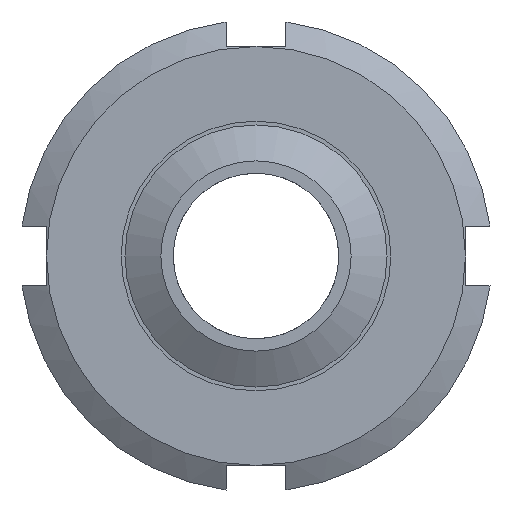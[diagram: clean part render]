
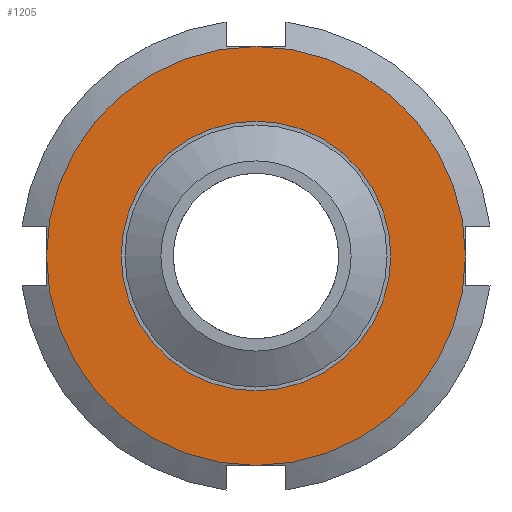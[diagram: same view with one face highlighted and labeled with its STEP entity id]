
A CAD part, front view. The second image highlights one B-rep face of the part: STEP entity #1205.
In plain terms, the highlighted planar face has unit normal (0, -1, 0) as drawn and (1, 0, 0) by its records, which use the part's own axes.
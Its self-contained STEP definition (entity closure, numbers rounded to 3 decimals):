
#170=FACE_BOUND('',#321,.T.);
#194=PLANE('',#1489);
#251=FACE_OUTER_BOUND('',#320,.T.);
#320=EDGE_LOOP('',(#1069,#1070));
#321=EDGE_LOOP('',(#1071,#1072));
#421=CIRCLE('',#1469,27.972);
#422=CIRCLE('',#1470,27.972);
#433=CIRCLE('',#1490,18.);
#434=CIRCLE('',#1491,18.);
#549=VERTEX_POINT('',#2247);
#550=VERTEX_POINT('',#2248);
#561=VERTEX_POINT('',#2304);
#562=VERTEX_POINT('',#2305);
#710=EDGE_CURVE('',#549,#550,#421,.T.);
#711=EDGE_CURVE('',#550,#549,#422,.T.);
#734=EDGE_CURVE('',#561,#562,#433,.T.);
#735=EDGE_CURVE('',#562,#561,#434,.T.);
#1069=ORIENTED_EDGE('',*,*,#710,.T.);
#1070=ORIENTED_EDGE('',*,*,#711,.T.);
#1071=ORIENTED_EDGE('',*,*,#734,.F.);
#1072=ORIENTED_EDGE('',*,*,#735,.F.);
#1205=ADVANCED_FACE('',(#251,#170),#194,.T.);
#1469=AXIS2_PLACEMENT_3D('',#2249,#1822,#1823);
#1470=AXIS2_PLACEMENT_3D('',#2250,#1824,#1825);
#1489=AXIS2_PLACEMENT_3D('',#2303,#1868,#1869);
#1490=AXIS2_PLACEMENT_3D('',#2306,#1870,#1871);
#1491=AXIS2_PLACEMENT_3D('',#2307,#1872,#1873);
#1822=DIRECTION('center_axis',(1.,0.,0.));
#1823=DIRECTION('ref_axis',(0.,0.,-1.));
#1824=DIRECTION('center_axis',(1.,0.,0.));
#1825=DIRECTION('ref_axis',(0.,0.,-1.));
#1868=DIRECTION('center_axis',(1.,0.,0.));
#1869=DIRECTION('ref_axis',(0.,0.,-1.));
#1870=DIRECTION('center_axis',(1.,0.,0.));
#1871=DIRECTION('ref_axis',(0.,0.,-1.));
#1872=DIRECTION('center_axis',(1.,0.,0.));
#1873=DIRECTION('ref_axis',(0.,0.,-1.));
#2247=CARTESIAN_POINT('',(21.,27.972,0.));
#2248=CARTESIAN_POINT('',(21.,-27.972,0.));
#2249=CARTESIAN_POINT('Origin',(21.,0.,0.));
#2250=CARTESIAN_POINT('Origin',(21.,0.,0.));
#2303=CARTESIAN_POINT('Origin',(21.,18.,0.));
#2304=CARTESIAN_POINT('',(21.,18.,0.));
#2305=CARTESIAN_POINT('',(21.,-18.,0.));
#2306=CARTESIAN_POINT('Origin',(21.,0.,0.));
#2307=CARTESIAN_POINT('Origin',(21.,0.,0.));
